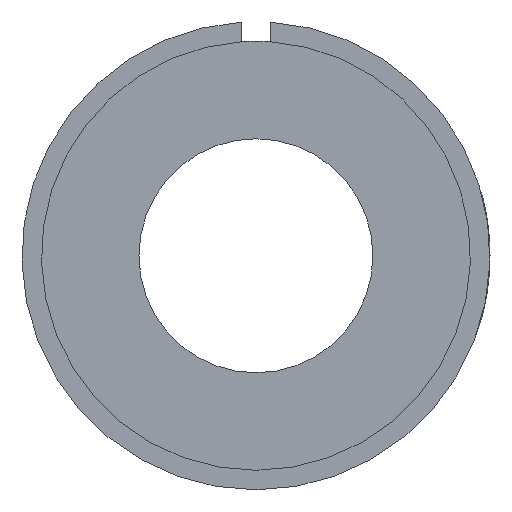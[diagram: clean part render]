
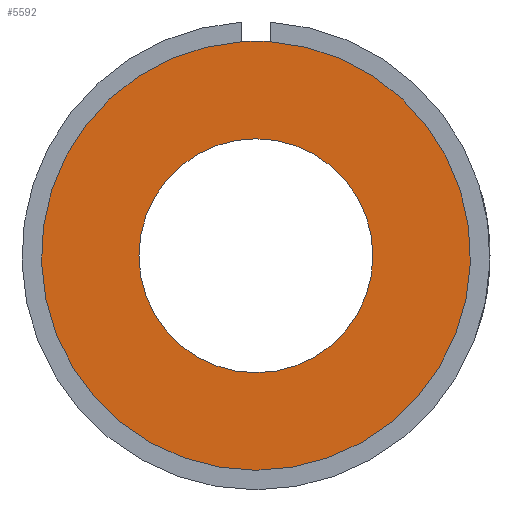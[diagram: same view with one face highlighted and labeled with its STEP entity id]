
A CAD part, left-side view. The second image highlights one B-rep face of the part: STEP entity #5592.
In plain terms, the highlighted planar face has unit normal (-1, 0, 0).
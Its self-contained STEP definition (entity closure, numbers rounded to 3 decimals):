
#126=PLANE('',#6028);
#1768=ORIENTED_EDGE('',*,*,#3449,.F.);
#1769=ORIENTED_EDGE('',*,*,#3450,.F.);
#1770=ORIENTED_EDGE('',*,*,#3414,.T.);
#3414=EDGE_CURVE('',#4260,#4260,#4646,.F.);
#3449=EDGE_CURVE('',#4283,#4284,#4659,.T.);
#3450=EDGE_CURVE('',#4284,#4283,#4660,.T.);
#4260=VERTEX_POINT('',#8623);
#4283=VERTEX_POINT('',#8694);
#4284=VERTEX_POINT('',#8695);
#4646=CIRCLE('',#6003,4.);
#4659=CIRCLE('',#6029,7.332);
#4660=CIRCLE('',#6030,7.332);
#4789=EDGE_LOOP('',(#1768,#1769));
#4790=EDGE_LOOP('',(#1770));
#5181=FACE_BOUND('',#4789,.T.);
#5182=FACE_BOUND('',#4790,.T.);
#5592=ADVANCED_FACE('',(#5181,#5182),#126,.T.);
#6003=AXIS2_PLACEMENT_3D('',#8622,#6575,#6576);
#6028=AXIS2_PLACEMENT_3D('',#8692,#6647,#6648);
#6029=AXIS2_PLACEMENT_3D('',#8693,#6649,#6650);
#6030=AXIS2_PLACEMENT_3D('',#8696,#6651,#6652);
#6575=DIRECTION('',(-1.,0.,0.));
#6576=DIRECTION('',(0.,0.,1.));
#6647=DIRECTION('',(-1.,0.,0.));
#6648=DIRECTION('',(0.,0.,-1.));
#6649=DIRECTION('',(1.,0.,0.));
#6650=DIRECTION('',(0.,0.,-1.));
#6651=DIRECTION('',(1.,0.,0.));
#6652=DIRECTION('',(0.,0.,-1.));
#8622=CARTESIAN_POINT('',(-11.7,0.,0.));
#8623=CARTESIAN_POINT('',(-11.7,0.,4.));
#8692=CARTESIAN_POINT('',(-11.7,0.,0.));
#8693=CARTESIAN_POINT('',(-11.7,0.,0.));
#8694=CARTESIAN_POINT('',(-11.7,0.5,7.315));
#8695=CARTESIAN_POINT('',(-11.7,-0.5,7.315));
#8696=CARTESIAN_POINT('',(-11.7,0.,0.));
